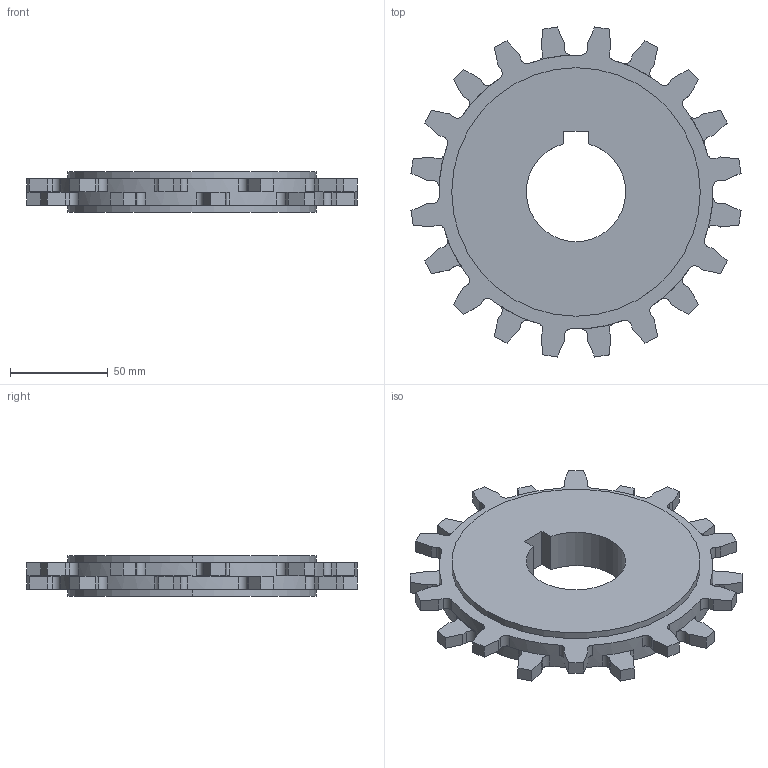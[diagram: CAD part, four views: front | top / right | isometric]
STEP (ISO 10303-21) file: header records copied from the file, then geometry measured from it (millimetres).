
FILE_DESCRIPTION((''),'2;1');
FILE_NAME('S2700_SPROCKET_65_RND','2008-12-12T',('jmumphre'),(''),'PRO/ENGINEER BY PARAMETRIC TECHNOLOGY CORPORATION, 2008150','PRO/ENGINEER BY PARAMETRIC TECHNOLOGY CORPORATION, 2008150','');
FILE_SCHEMA(('CONFIG_CONTROL_DESIGN'));
Length unit declared in the file: inch
Products named in the file (1): S2700_SPROCKET_65_RND
Bounding box: 168.73 x 168.73 x 20.83 mm (x, y, z)
Volume: 278508.7 mm3; surface area: 48682.7 mm2
Topology: 1 solids, 1 shells, 174 faces, 510 edges, 340 vertices
Faces by surface type: plane 127, cylinder 47
Entity records: 5832 total; most frequent: CARTESIAN_POINT 1024, ORIENTED_EDGE 1020, DIRECTION 992, EDGE_CURVE 510, VECTOR 376, LINE 376, VERTEX_POINT 340, AXIS2_PLACEMENT_3D 308
